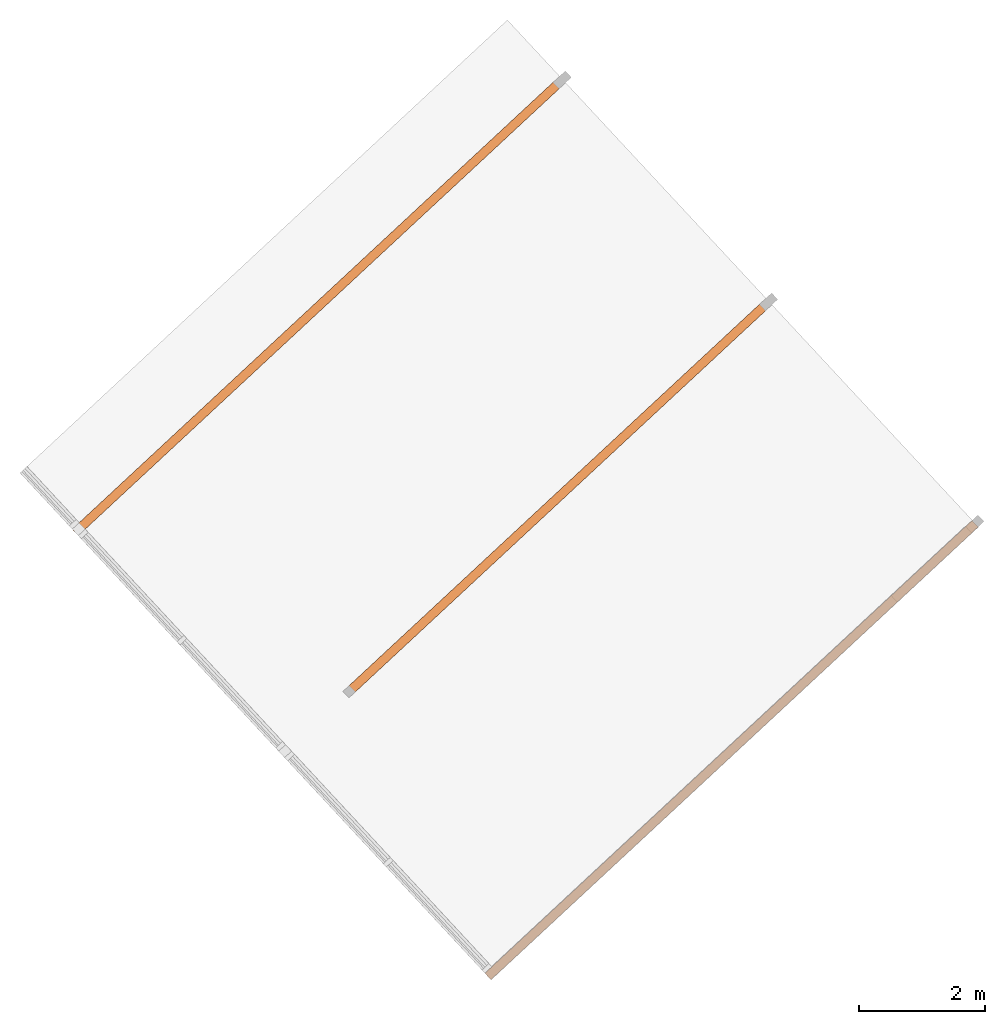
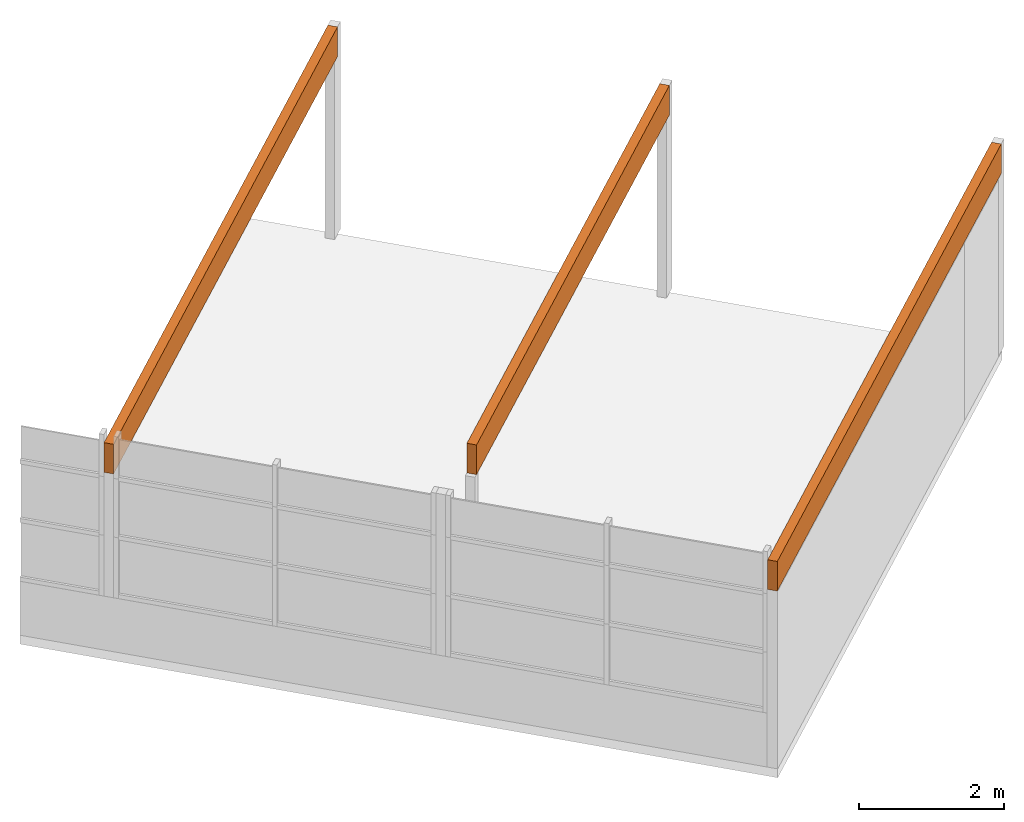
# One storey, part 3 of 3: 3 proxies.
"""IFC2X3 building model written with IfcOpenShell, lengths in millimetres."""

from ifc_helpers import new_model, entity, si_unit, converted_unit, derived_unit, direction, frame, origin, origin_with_axes, place, context, subcontext, project, spatial, faceted_brep, material, type_object, element, save


model = new_model("IFC2X3")

# Units and contexts
model_context = context("Model", 3, precision=0.01, world=origin(), true_north=direction((6.12323399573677e-17, 1.0)))
plan_context = context("Plan", 3, precision=1e-05, world=origin_with_axes())
body_context = subcontext(model_context, "Body", "Model", "MODEL_VIEW")
ifc_project = project(units=[converted_unit("PLANEANGLEUNIT", "DEGREE", entity("IfcPositiveLengthMeasure", 0.0174532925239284), si_unit("PLANEANGLEUNIT", "RADIAN"), dimensions=[0, 0, 0, 0, 0, 0, 0]), si_unit("AREAUNIT", "SQUARE_METRE"), si_unit("LENGTHUNIT", "METRE", prefix="MILLI"), si_unit("MASSUNIT", "GRAM", prefix="KILO"), si_unit("POWERUNIT", "WATT"), si_unit("PRESSUREUNIT", "PASCAL", prefix="KILO"), si_unit("FORCEUNIT", "NEWTON", prefix="KILO"), si_unit("ELECTRICVOLTAGEUNIT", "VOLT"), si_unit("ELECTRICCURRENTUNIT", "AMPERE"), si_unit("THERMODYNAMICTEMPERATUREUNIT", "DEGREE_CELSIUS"), si_unit("TIMEUNIT", "SECOND"), si_unit("VOLUMEUNIT", "CUBIC_METRE"), derived_unit("LINEARVELOCITYUNIT", [(si_unit("LENGTHUNIT", "METRE"), 1), (si_unit("TIMEUNIT", "SECOND"), -1)]), derived_unit("VOLUMETRICFLOWRATEUNIT", [(si_unit("VOLUMEUNIT", "CUBIC_METRE"), 1), (si_unit("TIMEUNIT", "SECOND"), -1)]), derived_unit("THERMALTRANSMITTANCEUNIT", [(si_unit("POWERUNIT", "WATT"), 1), (si_unit("THERMODYNAMICTEMPERATUREUNIT", "KELVIN"), -1), (si_unit("AREAUNIT", "SQUARE_METRE"), -1)]), derived_unit("SOUNDPRESSUREUNIT", [(si_unit("PRESSUREUNIT", "PASCAL"), 1)])], contexts=[model_context, plan_context])

# Site, building, storey
site_placement = place(None, frame((159880.25068742, 140851.808625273, 0.0), z_axis=(0.0, 0.0, 1.0), x_axis=(-0.680735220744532, 0.732529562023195, 0.0)))
site = spatial("IfcSite", under=ifc_project, at=site_placement, Name="Default", CompositionType="ELEMENT")
building_placement = place(site_placement, origin_with_axes())
building = spatial("IfcBuilding", under=site, at=building_placement, CompositionType="ELEMENT")
storey_placement = place(building_placement, frame((0.0, 0.0, 4900.0), z_axis=(0.0, 0.0, 1.0), x_axis=(1.0, 0.0, 0.0)))
storey = spatial("IfcBuildingStorey", under=building, at=storey_placement, Name="001-01", CompositionType="ELEMENT", Elevation=4900.0)

# Proxies
ifc_material = material(Name="TIMBER/C24")
building_element_proxy_type_1 = type_object("IfcBuildingElementProxyType", Name="933*140 48456:933*140 48456", PredefinedType="NOTDEFINED", material=ifc_material)
proxy_1_placement = place(storey_placement, frame((48000.0000006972, 19730.0000000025, 3466.50000000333), z_axis=(0.0, 0.0, 1.0), x_axis=(0.0, 1.0, 0.0)))
element("IfcBuildingElementProxy", 1, at=proxy_1_placement, inside=storey, type_object=building_element_proxy_type_1, Name="933*140 48456:933*140 48456", ObjectType="933*140 48456:933*140 48456", context=body_context, shape_type="Brep", body=[
    faceted_brep([(0.0, 70.0, 33.4999999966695), (0.0, -70.0, 33.4999999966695), (0.0, -70.0, -466.5), (0.0, 70.0, -466.5), (10530.9999999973, -69.9999999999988, 33.4999999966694), (10530.9999999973, -70.0, -466.5), (10530.9999999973, 70.0, -466.5), (10530.9999999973, 70.0000000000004, 33.4999999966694)], [[[0, 1, 2, 3]], [[1, 4, 5, 2]], [[6, 7, 0, 3]], [[5, 6, 3, 2]], [[7, 6, 5, 4]], [[4, 1, 0, 7]]], orient=[[False], [False], [False], [False], [False], [False]]),
])
proxy_2_placement = place(storey_placement, frame((57600.0000006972, 19730.0000000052, 3466.50000000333), z_axis=(0.0, 0.0, 1.0), x_axis=(0.0, 1.0, 0.0)))
element("IfcBuildingElementProxy", 2, at=proxy_2_placement, inside=storey, type_object=building_element_proxy_type_1, Name="933*140 48456:933*140 48456", ObjectType="933*140 48456:933*140 48456", context=body_context, shape_type="Brep", body=[
    faceted_brep([(0.0, 70.0, 33.4999999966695), (0.0, -70.0, 33.4999999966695), (0.0, -70.0, -466.5), (0.0, 70.0, -466.5), (10530.9999999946, -70.0, 33.4999999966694), (10530.9999999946, -70.0, -466.5), (10530.9999999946, 70.0, -466.5), (10530.9999999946, 69.9999999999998, 33.4999999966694)], [[[0, 1, 2, 3]], [[1, 4, 5, 2]], [[6, 7, 0, 3]], [[5, 6, 3, 2]], [[7, 6, 5, 4]], [[4, 1, 0, 7]]], orient=[[False], [False], [False], [False], [False], [False]]),
])
building_element_proxy_type_2 = type_object("IfcBuildingElementProxyType", Name="933*140 49506:933*140 49506", PredefinedType="NOTDEFINED", material=ifc_material)
proxy_3_placement = place(storey_placement, frame((52800.0000006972, 19730.000000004, 3466.50000000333), z_axis=(0.0, 0.0, 1.0), x_axis=(0.0, 1.0, 0.0)))
element("IfcBuildingElementProxy", 3, at=proxy_3_placement, inside=storey, type_object=building_element_proxy_type_2, Name="933*140 49506:933*140 49506", ObjectType="933*140 49506:933*140 49506", context=body_context, shape_type="Brep", body=[
    faceted_brep([(0.0, 70.0, 33.4999999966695), (0.0, -70.0, 33.4999999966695), (0.0, -70.0, -466.5), (0.0, 70.0, -466.5), (9070.0, -70.0, 33.4999999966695), (9070.0, -70.0, -466.5), (9070.0, 70.0, 33.4999999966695), (9070.0, 70.0, -466.5)], [[[0, 1, 2, 3]], [[1, 4, 5, 2]], [[4, 6, 7, 5]], [[6, 0, 3, 7]], [[3, 2, 5, 7]], [[6, 4, 1, 0]]], orient=[[False], [False], [False], [False], [False], [False]]),
])

save(model, "model.ifc")
